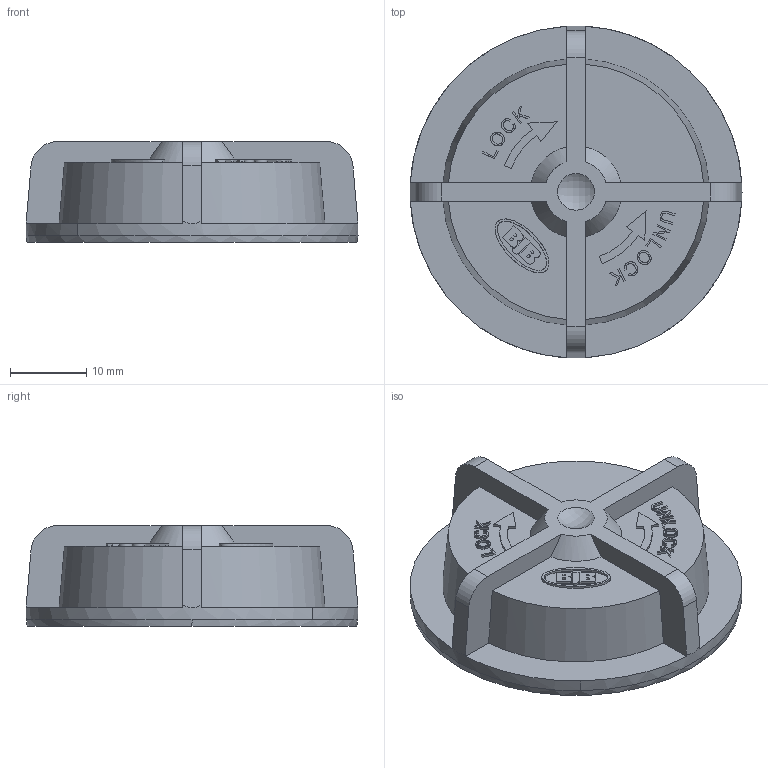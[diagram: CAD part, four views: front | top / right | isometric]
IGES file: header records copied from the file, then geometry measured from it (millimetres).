
Global section: file name: C:\CoreTechnologie\3D-in\021YN06Y0C.igs; native system: CT CoreTechnologie 3D Evolution; preprocessor: 2006; date: 1180723.115633; units: millimetre
Bounding box: 43.5 x 43.5 x 13.21 mm (x, y, z)
Volume: 4960.9 mm3; surface area: 5847 mm2
Topology: 1 solids, 1 shells, 235 faces, 610 edges, 408 vertices
Faces by surface type: plane 161, revolution 54, bspline 20
